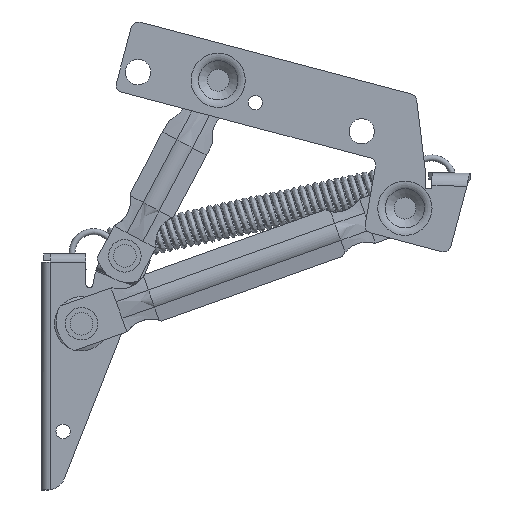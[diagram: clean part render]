
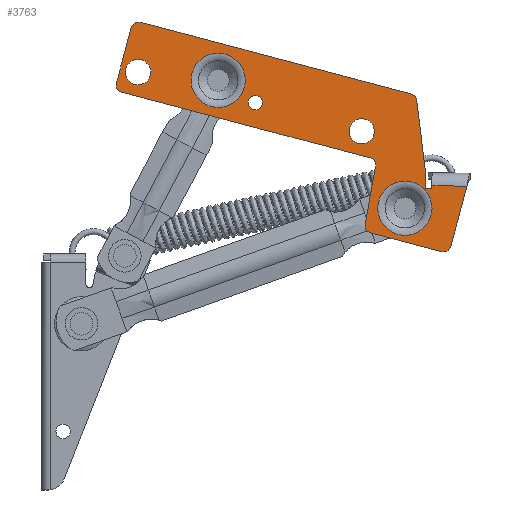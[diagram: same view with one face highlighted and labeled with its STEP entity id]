
A CAD part, front view. The second image highlights one B-rep face of the part: STEP entity #3763.
In plain terms, the highlighted planar face has unit normal (0, -1, 0).
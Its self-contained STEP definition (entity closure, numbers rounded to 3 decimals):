
#227=PLANE('',#4082);
#418=LINE('',#5757,#745);
#424=LINE('',#5807,#751);
#430=LINE('',#5818,#757);
#431=LINE('',#5820,#758);
#440=LINE('',#5850,#767);
#441=LINE('',#5854,#768);
#442=LINE('',#5858,#769);
#443=LINE('',#5862,#770);
#444=LINE('',#5866,#771);
#445=LINE('',#5870,#772);
#446=LINE('',#5873,#773);
#745=VECTOR('',#4719,10.);
#751=VECTOR('',#4735,10.);
#757=VECTOR('',#4743,10.);
#758=VECTOR('',#4746,10.);
#767=VECTOR('',#4771,10.);
#768=VECTOR('',#4774,10.);
#769=VECTOR('',#4777,10.);
#770=VECTOR('',#4780,10.);
#771=VECTOR('',#4783,10.);
#772=VECTOR('',#4786,10.);
#773=VECTOR('',#4789,10.);
#1038=FACE_BOUND('',#1433,.T.);
#1039=FACE_BOUND('',#1434,.T.);
#1040=FACE_BOUND('',#1435,.T.);
#1041=FACE_BOUND('',#1436,.T.);
#1042=FACE_BOUND('',#1437,.T.);
#1163=FACE_OUTER_BOUND('',#1432,.T.);
#1432=EDGE_LOOP('',(#3046,#3047,#3048,#3049,#3050,#3051,#3052,#3053,#3054,
#3055,#3056,#3057,#3058,#3059,#3060,#3061,#3062));
#1433=EDGE_LOOP('',(#3063));
#1434=EDGE_LOOP('',(#3064));
#1435=EDGE_LOOP('',(#3065));
#1436=EDGE_LOOP('',(#3066));
#1437=EDGE_LOOP('',(#3067));
#1638=CIRCLE('',#4036,7.5);
#1644=CIRCLE('',#4047,7.5);
#1645=CIRCLE('',#4049,3.5);
#1647=CIRCLE('',#4052,2.);
#1649=CIRCLE('',#4055,3.5);
#1659=CIRCLE('',#4083,2.);
#1660=CIRCLE('',#4084,2.);
#1661=CIRCLE('',#4085,2.);
#1662=CIRCLE('',#4086,2.);
#1663=CIRCLE('',#4087,2.);
#1664=CIRCLE('',#4088,2.);
#1825=VERTEX_POINT('',#5666);
#1831=VERTEX_POINT('',#5683);
#1832=VERTEX_POINT('',#5686);
#1834=VERTEX_POINT('',#5691);
#1836=VERTEX_POINT('',#5696);
#1856=VERTEX_POINT('',#5754);
#1857=VERTEX_POINT('',#5756);
#1861=VERTEX_POINT('',#5805);
#1862=VERTEX_POINT('',#5806);
#1866=VERTEX_POINT('',#5816);
#1879=VERTEX_POINT('',#5849);
#1880=VERTEX_POINT('',#5851);
#1881=VERTEX_POINT('',#5853);
#1882=VERTEX_POINT('',#5855);
#1883=VERTEX_POINT('',#5857);
#1884=VERTEX_POINT('',#5859);
#1885=VERTEX_POINT('',#5861);
#1886=VERTEX_POINT('',#5863);
#1887=VERTEX_POINT('',#5865);
#1888=VERTEX_POINT('',#5867);
#1889=VERTEX_POINT('',#5869);
#1890=VERTEX_POINT('',#5871);
#2232=EDGE_CURVE('',#1825,#1825,#1638,.T.);
#2238=EDGE_CURVE('',#1831,#1831,#1644,.T.);
#2239=EDGE_CURVE('',#1832,#1832,#1645,.T.);
#2241=EDGE_CURVE('',#1834,#1834,#1647,.T.);
#2243=EDGE_CURVE('',#1836,#1836,#1649,.T.);
#2272=EDGE_CURVE('',#1857,#1856,#418,.T.);
#2281=EDGE_CURVE('',#1861,#1862,#424,.T.);
#2287=EDGE_CURVE('',#1856,#1866,#430,.T.);
#2288=EDGE_CURVE('',#1866,#1861,#431,.T.);
#2303=EDGE_CURVE('',#1862,#1879,#440,.T.);
#2304=EDGE_CURVE('',#1879,#1880,#1659,.T.);
#2305=EDGE_CURVE('',#1880,#1881,#441,.T.);
#2306=EDGE_CURVE('',#1881,#1882,#1660,.T.);
#2307=EDGE_CURVE('',#1882,#1883,#442,.T.);
#2308=EDGE_CURVE('',#1883,#1884,#1661,.T.);
#2309=EDGE_CURVE('',#1884,#1885,#443,.T.);
#2310=EDGE_CURVE('',#1885,#1886,#1662,.T.);
#2311=EDGE_CURVE('',#1886,#1887,#444,.T.);
#2312=EDGE_CURVE('',#1887,#1888,#1663,.T.);
#2313=EDGE_CURVE('',#1888,#1889,#445,.T.);
#2314=EDGE_CURVE('',#1889,#1890,#1664,.T.);
#2315=EDGE_CURVE('',#1890,#1857,#446,.T.);
#3046=ORIENTED_EDGE('',*,*,#2281,.T.);
#3047=ORIENTED_EDGE('',*,*,#2303,.T.);
#3048=ORIENTED_EDGE('',*,*,#2304,.T.);
#3049=ORIENTED_EDGE('',*,*,#2305,.T.);
#3050=ORIENTED_EDGE('',*,*,#2306,.T.);
#3051=ORIENTED_EDGE('',*,*,#2307,.T.);
#3052=ORIENTED_EDGE('',*,*,#2308,.T.);
#3053=ORIENTED_EDGE('',*,*,#2309,.T.);
#3054=ORIENTED_EDGE('',*,*,#2310,.T.);
#3055=ORIENTED_EDGE('',*,*,#2311,.T.);
#3056=ORIENTED_EDGE('',*,*,#2312,.T.);
#3057=ORIENTED_EDGE('',*,*,#2313,.T.);
#3058=ORIENTED_EDGE('',*,*,#2314,.T.);
#3059=ORIENTED_EDGE('',*,*,#2315,.T.);
#3060=ORIENTED_EDGE('',*,*,#2272,.T.);
#3061=ORIENTED_EDGE('',*,*,#2287,.T.);
#3062=ORIENTED_EDGE('',*,*,#2288,.T.);
#3063=ORIENTED_EDGE('',*,*,#2238,.T.);
#3064=ORIENTED_EDGE('',*,*,#2239,.T.);
#3065=ORIENTED_EDGE('',*,*,#2241,.T.);
#3066=ORIENTED_EDGE('',*,*,#2243,.T.);
#3067=ORIENTED_EDGE('',*,*,#2232,.T.);
#3763=ADVANCED_FACE('',(#1163,#1038,#1039,#1040,#1041,#1042),#227,.F.);
#4036=AXIS2_PLACEMENT_3D('',#5667,#4629,#4630);
#4047=AXIS2_PLACEMENT_3D('',#5684,#4651,#4652);
#4049=AXIS2_PLACEMENT_3D('',#5687,#4655,#4656);
#4052=AXIS2_PLACEMENT_3D('',#5692,#4661,#4662);
#4055=AXIS2_PLACEMENT_3D('',#5697,#4667,#4668);
#4082=AXIS2_PLACEMENT_3D('',#5848,#4769,#4770);
#4083=AXIS2_PLACEMENT_3D('',#5852,#4772,#4773);
#4084=AXIS2_PLACEMENT_3D('',#5856,#4775,#4776);
#4085=AXIS2_PLACEMENT_3D('',#5860,#4778,#4779);
#4086=AXIS2_PLACEMENT_3D('',#5864,#4781,#4782);
#4087=AXIS2_PLACEMENT_3D('',#5868,#4784,#4785);
#4088=AXIS2_PLACEMENT_3D('',#5872,#4787,#4788);
#4629=DIRECTION('center_axis',(0.,1.,0.));
#4630=DIRECTION('ref_axis',(-1.,0.,0.));
#4651=DIRECTION('center_axis',(0.,1.,0.));
#4652=DIRECTION('ref_axis',(-1.,0.,0.));
#4655=DIRECTION('center_axis',(0.,1.,0.));
#4656=DIRECTION('ref_axis',(-1.,0.,0.));
#4661=DIRECTION('center_axis',(0.,1.,0.));
#4662=DIRECTION('ref_axis',(-1.,0.,0.));
#4667=DIRECTION('center_axis',(0.,1.,0.));
#4668=DIRECTION('ref_axis',(-1.,0.,0.));
#4719=DIRECTION('',(0.243,0.,-0.97));
#4735=DIRECTION('',(-0.97,0.,-0.243));
#4743=DIRECTION('',(0.97,0.,0.243));
#4746=DIRECTION('',(0.243,0.,-0.97));
#4769=DIRECTION('center_axis',(0.,1.,0.));
#4770=DIRECTION('ref_axis',(0.,0.,1.));
#4771=DIRECTION('',(-0.928,0.,-0.371));
#4772=DIRECTION('center_axis',(0.,-1.,0.));
#4773=DIRECTION('ref_axis',(1.,0.,0.));
#4774=DIRECTION('',(0.,0.,-1.));
#4775=DIRECTION('center_axis',(0.,-1.,0.));
#4776=DIRECTION('ref_axis',(0.,0.,1.));
#4777=DIRECTION('',(1.,0.,0.));
#4778=DIRECTION('center_axis',(0.,-1.,0.));
#4779=DIRECTION('ref_axis',(-1.,0.,0.));
#4780=DIRECTION('',(0.,0.,1.));
#4781=DIRECTION('center_axis',(0.,1.,0.));
#4782=DIRECTION('ref_axis',(-1.,0.,0.));
#4783=DIRECTION('',(0.996,0.,0.084));
#4784=DIRECTION('center_axis',(0.,-1.,0.));
#4785=DIRECTION('ref_axis',(-1.,0.,0.));
#4786=DIRECTION('',(0.,0.,1.));
#4787=DIRECTION('center_axis',(0.,-1.,0.));
#4788=DIRECTION('ref_axis',(0.,0.,-1.));
#4789=DIRECTION('',(-1.,0.,0.));
#5666=CARTESIAN_POINT('',(-9.628,0.,-7.526));
#5667=CARTESIAN_POINT('Origin',(-9.,0.,-15.));
#5683=CARTESIAN_POINT('',(-30.,0.,-66.5));
#5684=CARTESIAN_POINT('Origin',(-30.,0.,-74.));
#5686=CARTESIAN_POINT('',(-23.,0.,-32.));
#5687=CARTESIAN_POINT('Origin',(-26.5,0.,-32.));
#5691=CARTESIAN_POINT('',(-24.614,0.,-62.498));
#5692=CARTESIAN_POINT('Origin',(-26.614,0.,-62.498));
#5696=CARTESIAN_POINT('',(-23.,0.,-96.));
#5697=CARTESIAN_POINT('Origin',(-26.5,0.,-96.));
#5754=CARTESIAN_POINT('',(-16.944,0.,-9.381));
#5756=CARTESIAN_POINT('',(-19.289,0.,0.));
#5757=CARTESIAN_POINT('',(-13.97,0.,-21.279));
#5805=CARTESIAN_POINT('',(-15.634,0.,-10.909));
#5806=CARTESIAN_POINT('',(-20.,0.,-12.));
#5807=CARTESIAN_POINT('',(-23.905,0.,-12.976));
#5816=CARTESIAN_POINT('',(-16.071,0.,-9.162));
#5818=CARTESIAN_POINT('',(-26.525,0.,-11.776));
#5820=CARTESIAN_POINT('',(-11.924,0.,-25.751));
#5848=CARTESIAN_POINT('Origin',(-24.319,0.,-46.474));
#5849=CARTESIAN_POINT('',(-38.743,0.,-19.497));
#5850=CARTESIAN_POINT('',(-20.,0.,-12.));
#5851=CARTESIAN_POINT('',(-40.,0.,-21.354));
#5852=CARTESIAN_POINT('Origin',(-38.,0.,-21.354));
#5853=CARTESIAN_POINT('',(-40.,0.,-99.));
#5854=CARTESIAN_POINT('',(-40.,0.,-21.354));
#5855=CARTESIAN_POINT('',(-38.,0.,-101.));
#5856=CARTESIAN_POINT('Origin',(-38.,0.,-99.));
#5857=CARTESIAN_POINT('',(-22.,0.,-101.));
#5858=CARTESIAN_POINT('',(-38.,0.,-101.));
#5859=CARTESIAN_POINT('',(-20.,0.,-99.));
#5860=CARTESIAN_POINT('Origin',(-22.,0.,-99.));
#5861=CARTESIAN_POINT('',(-20.,0.,-27.839));
#5862=CARTESIAN_POINT('',(-20.,0.,-99.));
#5863=CARTESIAN_POINT('',(-18.167,0.,-25.846));
#5864=CARTESIAN_POINT('Origin',(-18.,0.,-27.839));
#5865=CARTESIAN_POINT('',(-1.833,0.,-24.473));
#5866=CARTESIAN_POINT('',(-18.167,0.,-25.846));
#5867=CARTESIAN_POINT('',(0.,0.,-22.48));
#5868=CARTESIAN_POINT('Origin',(-2.,0.,-22.48));
#5869=CARTESIAN_POINT('',(0.,0.,-2.));
#5870=CARTESIAN_POINT('',(0.,0.,-22.48));
#5871=CARTESIAN_POINT('',(-2.,0.,0.));
#5872=CARTESIAN_POINT('Origin',(-2.,0.,-2.));
#5873=CARTESIAN_POINT('',(-2.,0.,0.));
